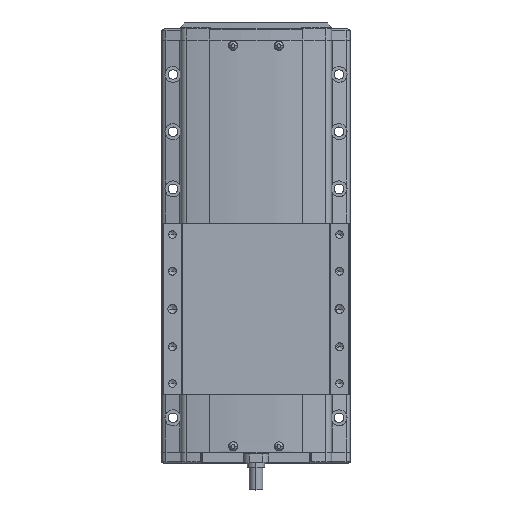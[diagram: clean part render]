
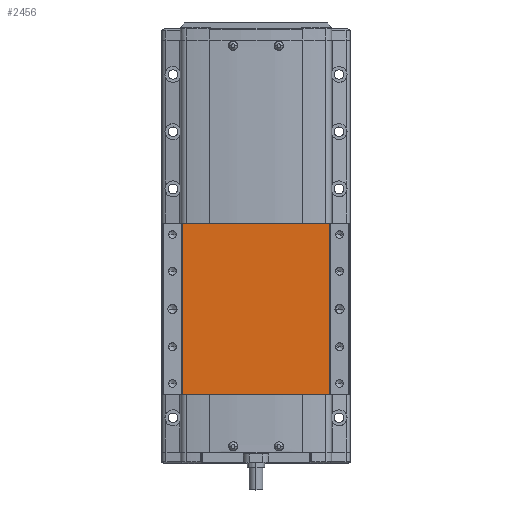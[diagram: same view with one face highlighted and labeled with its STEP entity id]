
A CAD part, top view. The second image highlights one B-rep face of the part: STEP entity #2456.
In plain terms, the highlighted planar face has unit normal (0, 0, 1).
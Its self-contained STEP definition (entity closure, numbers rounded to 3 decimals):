
#2456=ADVANCED_FACE('',(#6415),#6416,.F.);
#6415=FACE_OUTER_BOUND('',#12320,.T.);
#6416=PLANE('',#12321);
#12320=EDGE_LOOP('',(#21148,#21149,#21150,#21151));
#12321=AXIS2_PLACEMENT_3D('',#21152,#21153,#21154);
#21148=ORIENTED_EDGE('',*,*,#37040,.F.);
#21149=ORIENTED_EDGE('',*,*,#37041,.F.);
#21150=ORIENTED_EDGE('',*,*,#37042,.F.);
#21151=ORIENTED_EDGE('',*,*,#37043,.T.);
#21152=CARTESIAN_POINT('',(-600.,322.222,51.5));
#21153=DIRECTION('',(0.,0.,-1.0));
#21154=DIRECTION('',(-1.0,0.,0.));
#37040=EDGE_CURVE('',#44561,#44562,#44563,.T.);
#37041=EDGE_CURVE('',#44564,#44561,#44565,.T.);
#37042=EDGE_CURVE('',#44566,#44564,#44567,.T.);
#37043=EDGE_CURVE('',#44566,#44562,#44568,.T.);
#44561=VERTEX_POINT('',#55271);
#44562=VERTEX_POINT('',#55272);
#44563=LINE('',#55273,#55274);
#44564=VERTEX_POINT('',#55275);
#44565=LINE('',#55276,#55277);
#44566=VERTEX_POINT('',#55278);
#44567=LINE('',#55279,#55280);
#44568=LINE('',#55281,#55282);
#55271=CARTESIAN_POINT('',(-664.376,472.222,51.5));
#55272=CARTESIAN_POINT('',(-535.624,472.222,51.5));
#55273=CARTESIAN_POINT('',(-535.624,472.222,51.5));
#55274=VECTOR('',#68103,10.0);
#55275=CARTESIAN_POINT('',(-664.376,322.222,51.5));
#55276=CARTESIAN_POINT('',(-664.376,322.222,51.5));
#55277=VECTOR('',#68104,10.0);
#55278=CARTESIAN_POINT('',(-535.624,322.222,51.5));
#55279=CARTESIAN_POINT('',(-535.624,322.222,51.5));
#55280=VECTOR('',#68105,10.0);
#55281=CARTESIAN_POINT('',(-535.624,322.222,51.5));
#55282=VECTOR('',#68106,10.0);
#68103=DIRECTION('',(1.0,0.,0.));
#68104=DIRECTION('',(0.,1.0,0.));
#68105=DIRECTION('',(-1.0,0.,0.));
#68106=DIRECTION('',(0.,1.0,0.));
